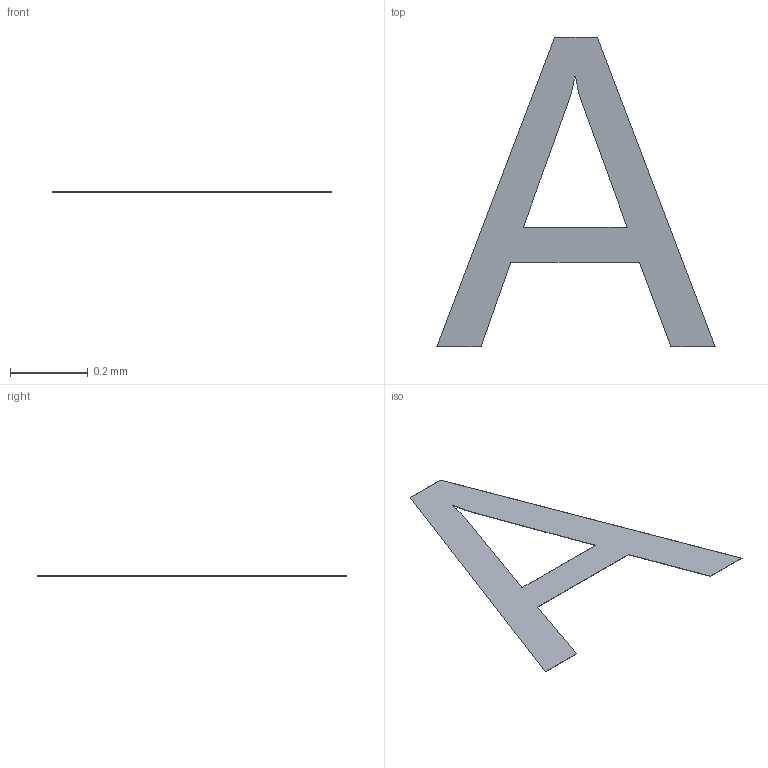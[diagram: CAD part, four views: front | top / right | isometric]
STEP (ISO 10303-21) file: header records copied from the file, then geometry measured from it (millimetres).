
FILE_DESCRIPTION(/* description */ ('STEP AP242 Edition 2','CAx-IF Rec.Pracs.---Representation and Presentation of Product Manufacturing Information (PMI)---4.0---2014-10-13','CAx-IF Rec.Pracs.---3D Tessellated Geometry---0.4---2014-09-14','2;1','CAx-IF Rec.Pracs.---User Defined Attributes---1.5---2016-08-15'),/* implementation_level */ '2;1');
FILE_NAME(/* name */ 'Assembly 1 - I2CLCD16X2~MODULE-TH_LCM1602K~nxQB (9)',/* time_stamp */ '2026-04-02T09:55:15Z',/* author */ (''),/* organization */ (''),/* preprocessor_version */ 'ST-DEVELOPER v20',/* originating_system */ 'ONSHAPE BY PTC INC, 1.212',/* authorisation */ ' ');
FILE_SCHEMA (('AP242_MANAGED_MODEL_BASED_3D_ENGINEERING_MIM_LF { 1 0 10303 442 3 1 4 }'));
Length unit declared in the file: metre
Products named in the file (1): I2CLCD16X2~MODULE-TH_LCM1602K~nxQB
Bounding box: 0.71 x 0.79 x 0 mm (x, y, z)
Volume: 0 mm3; surface area: 0.4 mm2
Topology: 1 solids, 1 shells, 16 faces, 42 edges, 28 vertices
Faces by surface type: plane 14, cylinder 1, bspline 1
Entity records: 633 total; most frequent: CARTESIAN_POINT 100, ORIENTED_EDGE 84, DIRECTION 74, EDGE_CURVE 42, LINE 38, VECTOR 38, VERTEX_POINT 28, EDGE_LOOP 18
